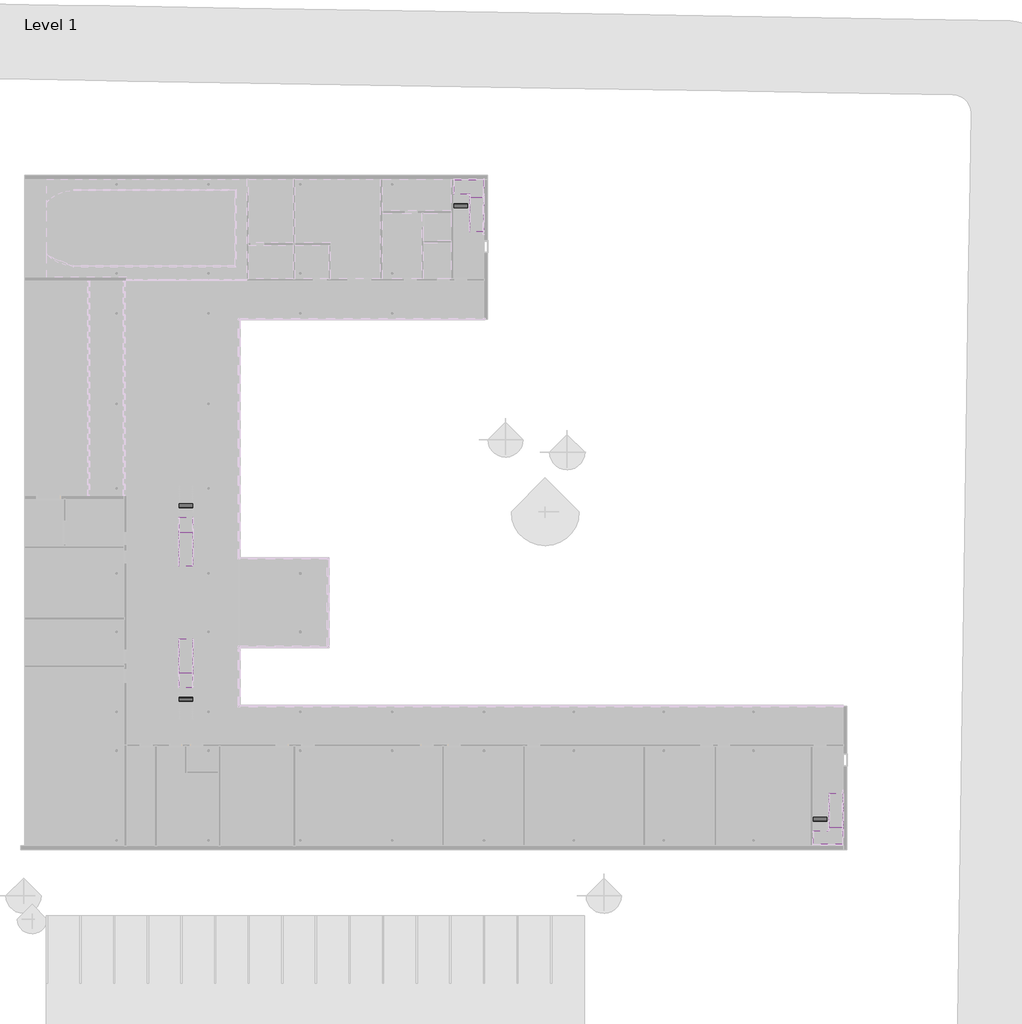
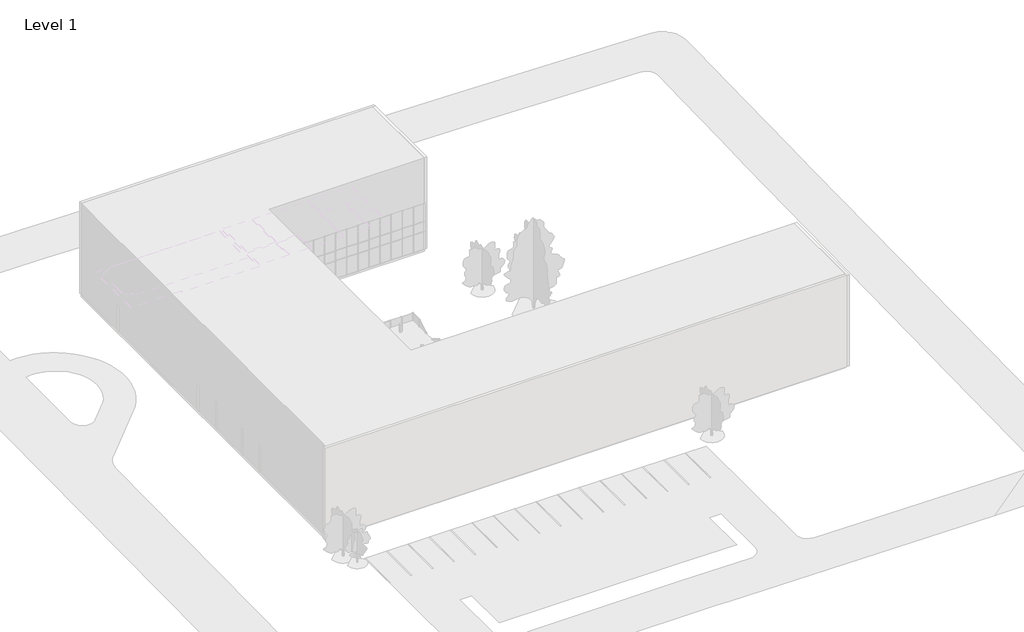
# One storey, part 22 of 27: 8 stair flights, 4 slabs.
"""IFC4 building model written with IfcOpenShell, lengths in millimetres."""

from ifc_helpers import new_model, si_unit, origin, place, context, project, spatial, transform, mapped, element, save
from components import non_monolithic_landing_4b8d17eb, non_monolithic_landing_c4304169, non_monolithic_landing_2b803b3b, non_monolithic_landing_49c053bb, stair_flight_50mm_tread_25mm_nosing_13mm_riser_1179de64, stair_flight_50mm_tread_25mm_nosing_13mm_riser_29f21586, stair_flight_50mm_tread_25mm_nosing_13mm_riser_00f31970, stair_flight_50mm_tread_25mm_nosing_13mm_riser_a435f8cb, stair_flight_50mm_tread_25mm_nosing_13mm_riser_b1afc72b, stair_flight_50mm_tread_25mm_nosing_13mm_riser_2cacd5da, stair_flight_50mm_tread_25mm_nosing_13mm_riser_4ac92de0, stair_flight_50mm_tread_25mm_nosing_13mm_riser_8a1a16b7

model = new_model("IFC4")

# Units and contexts
model_context = context("Model", 3, world=origin())
ifc_project = project(units=[si_unit("LENGTHUNIT", "METRE", prefix="MILLI")], contexts=[model_context])

# Site, building, storey
site = spatial("IfcSite", under=ifc_project)
building = spatial("IfcBuilding", under=site)
storey = spatial("IfcBuildingStorey", under=building, Name="Level 1", Elevation=0.0)

# Slabs
placement = place(None, origin())
non_monolithic_landing_shape = non_monolithic_landing_4b8d17eb(model_context)
element("IfcSlab", 1, ObjectType="Non-Monolithic Landing", at=placement, inside=storey, context=model_context, shape_type="MappedRepresentation", body=[
    mapped(non_monolithic_landing_shape, transform((0.0, 0.0, 0.0), x_axis=(1.0, 0.0, 0.0), y_axis=(0.0, 1.0, 0.0), z_axis=(0.0, 0.0, 1.0))),
])
non_monolithic_landing_2_shape = non_monolithic_landing_c4304169(model_context)
element("IfcSlab", 2, ObjectType="Non-Monolithic Landing", at=placement, inside=storey, context=model_context, shape_type="MappedRepresentation", body=[
    mapped(non_monolithic_landing_2_shape, transform((0.0, 0.0, 0.0), x_axis=(1.0, 0.0, 0.0), y_axis=(0.0, 1.0, 0.0), z_axis=(0.0, 0.0, 1.0))),
])
non_monolithic_landing_3_shape = non_monolithic_landing_2b803b3b(model_context)
element("IfcSlab", 3, ObjectType="Non-Monolithic Landing", at=placement, inside=storey, context=model_context, shape_type="MappedRepresentation", body=[
    mapped(non_monolithic_landing_3_shape, transform((0.0, 0.0, 0.0), x_axis=(1.0, 0.0, 0.0), y_axis=(0.0, 1.0, 0.0), z_axis=(0.0, 0.0, 1.0))),
])
non_monolithic_landing_4_shape = non_monolithic_landing_49c053bb(model_context)
element("IfcSlab", 4, ObjectType="Non-Monolithic Landing", at=placement, inside=storey, context=model_context, shape_type="MappedRepresentation", body=[
    mapped(non_monolithic_landing_4_shape, transform((0.0, 0.0, 0.0), x_axis=(1.0, 0.0, 0.0), y_axis=(0.0, 1.0, 0.0), z_axis=(0.0, 0.0, 1.0))),
])

# Stair flights
stair_flight_50mm_tread_25mm_nosing_13mm_riser_shape = stair_flight_50mm_tread_25mm_nosing_13mm_riser_1179de64(model_context)
element("IfcStairFlight", 5, ObjectType="50mm Tread 25mm Nosing 13mm Riser", at=placement, inside=storey, context=model_context, shape_type="MappedRepresentation", body=[
    mapped(stair_flight_50mm_tread_25mm_nosing_13mm_riser_shape, transform((0.0, 0.0, 0.0), x_axis=(1.0, 0.0, 0.0), y_axis=(0.0, 1.0, 0.0), z_axis=(0.0, 0.0, 1.0))),
])
stair_flight_50mm_tread_25mm_nosing_13mm_riser_2_shape = stair_flight_50mm_tread_25mm_nosing_13mm_riser_29f21586(model_context)
element("IfcStairFlight", 6, ObjectType="50mm Tread 25mm Nosing 13mm Riser", at=placement, inside=storey, context=model_context, shape_type="MappedRepresentation", body=[
    mapped(stair_flight_50mm_tread_25mm_nosing_13mm_riser_2_shape, transform((0.0, 0.0, 0.0), x_axis=(1.0, 0.0, 0.0), y_axis=(0.0, 1.0, 0.0), z_axis=(0.0, 0.0, 1.0))),
])
stair_flight_50mm_tread_25mm_nosing_13mm_riser_3_shape = stair_flight_50mm_tread_25mm_nosing_13mm_riser_00f31970(model_context)
element("IfcStairFlight", 7, ObjectType="50mm Tread 25mm Nosing 13mm Riser", at=placement, inside=storey, context=model_context, shape_type="MappedRepresentation", body=[
    mapped(stair_flight_50mm_tread_25mm_nosing_13mm_riser_3_shape, transform((0.0, 0.0, 0.0), x_axis=(1.0, 0.0, 0.0), y_axis=(0.0, 1.0, 0.0), z_axis=(0.0, 0.0, 1.0))),
])
stair_flight_50mm_tread_25mm_nosing_13mm_riser_4_shape = stair_flight_50mm_tread_25mm_nosing_13mm_riser_a435f8cb(model_context)
element("IfcStairFlight", 8, ObjectType="50mm Tread 25mm Nosing 13mm Riser", at=placement, inside=storey, context=model_context, shape_type="MappedRepresentation", body=[
    mapped(stair_flight_50mm_tread_25mm_nosing_13mm_riser_4_shape, transform((0.0, 0.0, 0.0), x_axis=(1.0, 0.0, 0.0), y_axis=(0.0, 1.0, 0.0), z_axis=(0.0, 0.0, 1.0))),
])
stair_flight_50mm_tread_25mm_nosing_13mm_riser_5_shape = stair_flight_50mm_tread_25mm_nosing_13mm_riser_b1afc72b(model_context)
element("IfcStairFlight", 9, ObjectType="50mm Tread 25mm Nosing 13mm Riser", at=placement, inside=storey, context=model_context, shape_type="MappedRepresentation", body=[
    mapped(stair_flight_50mm_tread_25mm_nosing_13mm_riser_5_shape, transform((0.0, 0.0, 0.0), x_axis=(1.0, 0.0, 0.0), y_axis=(0.0, 1.0, 0.0), z_axis=(0.0, 0.0, 1.0))),
])
stair_flight_50mm_tread_25mm_nosing_13mm_riser_6_shape = stair_flight_50mm_tread_25mm_nosing_13mm_riser_2cacd5da(model_context)
element("IfcStairFlight", 10, ObjectType="50mm Tread 25mm Nosing 13mm Riser", at=placement, inside=storey, context=model_context, shape_type="MappedRepresentation", body=[
    mapped(stair_flight_50mm_tread_25mm_nosing_13mm_riser_6_shape, transform((0.0, 0.0, 0.0), x_axis=(1.0, 0.0, 0.0), y_axis=(0.0, 1.0, 0.0), z_axis=(0.0, 0.0, 1.0))),
])
stair_flight_50mm_tread_25mm_nosing_13mm_riser_7_shape = stair_flight_50mm_tread_25mm_nosing_13mm_riser_4ac92de0(model_context)
element("IfcStairFlight", 11, ObjectType="50mm Tread 25mm Nosing 13mm Riser", at=placement, inside=storey, context=model_context, shape_type="MappedRepresentation", body=[
    mapped(stair_flight_50mm_tread_25mm_nosing_13mm_riser_7_shape, transform((0.0, 0.0, 0.0), x_axis=(1.0, 0.0, 0.0), y_axis=(0.0, 1.0, 0.0), z_axis=(0.0, 0.0, 1.0))),
])
stair_flight_50mm_tread_25mm_nosing_13mm_riser_8_shape = stair_flight_50mm_tread_25mm_nosing_13mm_riser_8a1a16b7(model_context)
element("IfcStairFlight", 12, ObjectType="50mm Tread 25mm Nosing 13mm Riser", at=placement, inside=storey, context=model_context, shape_type="MappedRepresentation", body=[
    mapped(stair_flight_50mm_tread_25mm_nosing_13mm_riser_8_shape, transform((0.0, 0.0, 0.0), x_axis=(1.0, 0.0, 0.0), y_axis=(0.0, 1.0, 0.0), z_axis=(0.0, 0.0, 1.0))),
])

save(model, "model.ifc")
